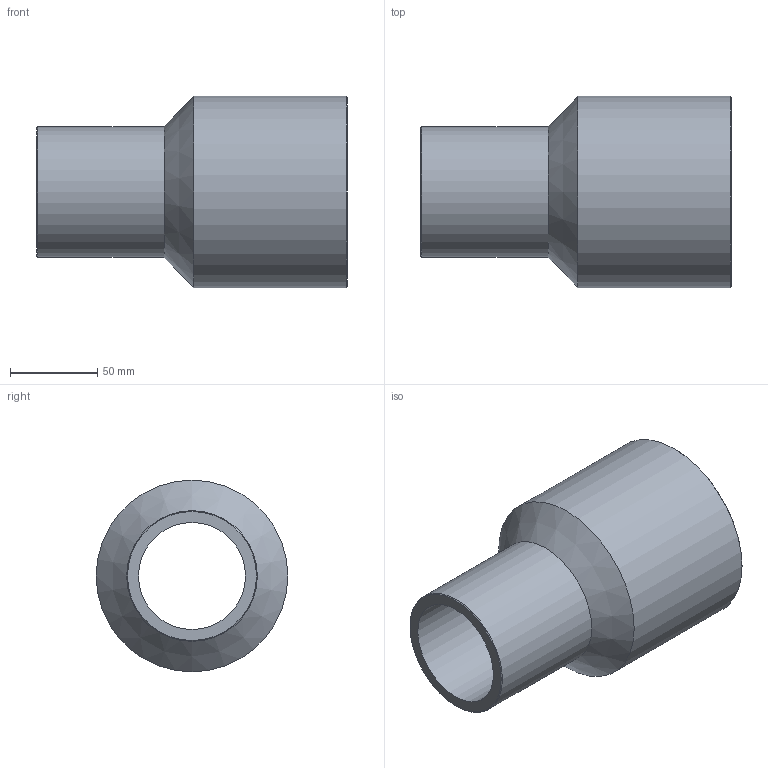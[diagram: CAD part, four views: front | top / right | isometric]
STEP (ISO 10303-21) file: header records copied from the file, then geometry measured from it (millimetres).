
FILE_DESCRIPTION(/* description */ ('Unknown'),/* implementation_level */ '2;1');
FILE_NAME(/* name */ 'RP110075C',/* time_stamp */ '2021-09-17T15:11:42+02:00',/* author */ ('Unknown'),/* organization */ ('Unknown'),/* preprocessor_version */ 'ST-DEVELOPER v16.7',/* originating_system */ 'Solid Edge',/* authorisation */ 'Unknown');
FILE_SCHEMA (('AUTOMOTIVE_DESIGN {1 0 10303 214 3 1 1}'));
Length unit declared in the file: millimetre
Products named in the file (1): RP110075C
Bounding box: 178 x 110 x 110 mm (x, y, z)
Volume: 450582.9 mm3; surface area: 102306.6 mm2
Topology: 1 solids, 1 shells, 10 faces, 19 edges, 11 vertices
Faces by surface type: cylinder 4, cone 4, plane 2
Full cylindrical faces by diameter (mm): 61.4 x1, 75 x1, 90 x1, 110 x1
Entity records: 238 total; most frequent: DIRECTION 42, CARTESIAN_POINT 31, AXIS2_PLACEMENT_3D 21, ORIENTED_EDGE 20, EDGE_LOOP 20, FACE_BOUND 20, EDGE_CURVE 10, VERTEX_POINT 10
